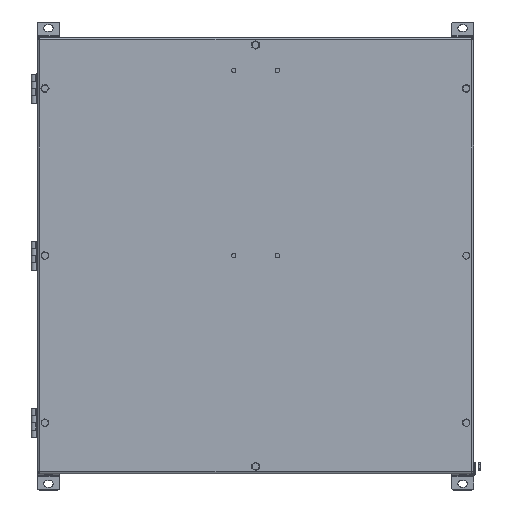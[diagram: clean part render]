
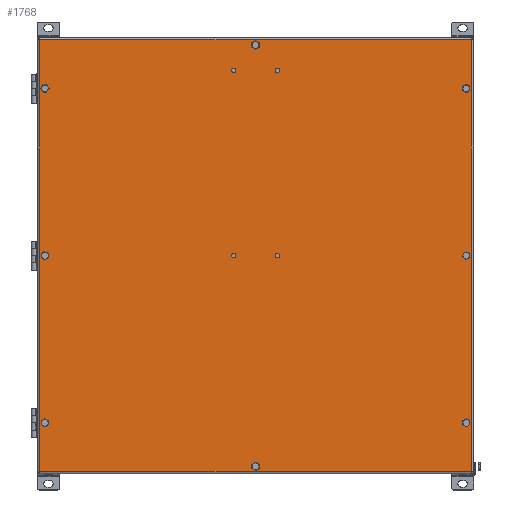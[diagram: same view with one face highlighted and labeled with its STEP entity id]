
A CAD part, top view. The second image highlights one B-rep face of the part: STEP entity #1768.
In plain terms, the highlighted planar face has unit normal (0, 0, 1).
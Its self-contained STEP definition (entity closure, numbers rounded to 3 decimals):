
#1198=CARTESIAN_POINT('',(297.,-297.0,250.5));
#1199=VERTEX_POINT('',#1198);
#1265=CARTESIAN_POINT('',(297.,297.,250.5));
#1266=VERTEX_POINT('',#1265);
#1372=CARTESIAN_POINT('',(-297.,-297.0,250.5));
#1373=VERTEX_POINT('',#1372);
#1388=CARTESIAN_POINT('',(297.,-297.0,250.5));
#1389=DIRECTION('',(-1.0,0.0,0.0));
#1390=VECTOR('',#1389,594.);
#1391=LINE('',#1388,#1390);
#1392=EDGE_CURVE('',#1199,#1373,#1391,.T.);
#1444=CARTESIAN_POINT('',(-297.0,297.,250.5));
#1445=VERTEX_POINT('',#1444);
#1466=CARTESIAN_POINT('',(-297.,-297.0,250.5));
#1467=DIRECTION('',(0.0,1.0,0.0));
#1468=VECTOR('',#1467,594.0);
#1469=LINE('',#1466,#1468);
#1470=EDGE_CURVE('',#1373,#1445,#1469,.T.);
#1494=CARTESIAN_POINT('',(-297.0,297.,250.5));
#1495=DIRECTION('',(1.0,0.0,0.0));
#1496=VECTOR('',#1495,594.0);
#1497=LINE('',#1494,#1496);
#1498=EDGE_CURVE('',#1445,#1266,#1497,.T.);
#1516=CARTESIAN_POINT('',(297.,297.0,250.5));
#1517=DIRECTION('',(0.0,-1.0,0.0));
#1518=VECTOR('',#1517,594.0);
#1519=LINE('',#1516,#1518);
#1520=EDGE_CURVE('',#1266,#1199,#1519,.T.);
#1625=CARTESIAN_POINT('',(0.,0.,250.5));
#1626=DIRECTION('',(0.0,0.0,1.0));
#1627=DIRECTION('',(1.0,0.0,0.0));
#1628=AXIS2_PLACEMENT_3D('',#1625,#1626,#1627);
#1629=PLANE('',#1628);
#1630=ORIENTED_EDGE('',*,*,#1392,.F.);
#1631=ORIENTED_EDGE('',*,*,#1520,.F.);
#1632=ORIENTED_EDGE('',*,*,#1498,.F.);
#1633=ORIENTED_EDGE('',*,*,#1470,.F.);
#1634=EDGE_LOOP('',(#1630,#1631,#1632,#1633));
#1635=FACE_OUTER_BOUND('',#1634,.T.);
#1636=CARTESIAN_POINT('',(-286.25,230.,250.5));
#1637=VERTEX_POINT('',#1636);
#1638=CARTESIAN_POINT('',(-290.,230.,250.5));
#1639=DIRECTION('',(0.0,0.0,-1.0));
#1640=DIRECTION('',(-1.0,0.0,0.0));
#1641=AXIS2_PLACEMENT_3D('',#1638,#1639,#1640);
#1642=CIRCLE('',#1641,3.75);
#1643=EDGE_CURVE('',#1637,#1637,#1642,.T.);
#1644=ORIENTED_EDGE('',*,*,#1643,.T.);
#1645=EDGE_LOOP('',(#1644));
#1646=FACE_BOUND('',#1645,.T.);
#1647=CARTESIAN_POINT('',(293.75,230.0,250.5));
#1648=VERTEX_POINT('',#1647);
#1649=CARTESIAN_POINT('',(290.,230.0,250.5));
#1650=DIRECTION('',(0.0,0.0,-1.0));
#1651=DIRECTION('',(-1.0,0.0,0.0));
#1652=AXIS2_PLACEMENT_3D('',#1649,#1650,#1651);
#1653=CIRCLE('',#1652,3.75);
#1654=EDGE_CURVE('',#1648,#1648,#1653,.T.);
#1655=ORIENTED_EDGE('',*,*,#1654,.T.);
#1656=EDGE_LOOP('',(#1655));
#1657=FACE_BOUND('',#1656,.T.);
#1658=CARTESIAN_POINT('',(-286.25,0.,250.5));
#1659=VERTEX_POINT('',#1658);
#1660=CARTESIAN_POINT('',(-290.,0.,250.5));
#1661=DIRECTION('',(0.0,0.0,-1.0));
#1662=DIRECTION('',(-1.0,0.0,0.0));
#1663=AXIS2_PLACEMENT_3D('',#1660,#1661,#1662);
#1664=CIRCLE('',#1663,3.75);
#1665=EDGE_CURVE('',#1659,#1659,#1664,.T.);
#1666=ORIENTED_EDGE('',*,*,#1665,.T.);
#1667=EDGE_LOOP('',(#1666));
#1668=FACE_BOUND('',#1667,.T.);
#1669=CARTESIAN_POINT('',(293.75,0.,250.5));
#1670=VERTEX_POINT('',#1669);
#1671=CARTESIAN_POINT('',(290.,0.,250.5));
#1672=DIRECTION('',(0.0,0.0,-1.0));
#1673=DIRECTION('',(-1.0,0.0,0.0));
#1674=AXIS2_PLACEMENT_3D('',#1671,#1672,#1673);
#1675=CIRCLE('',#1674,3.75);
#1676=EDGE_CURVE('',#1670,#1670,#1675,.T.);
#1677=ORIENTED_EDGE('',*,*,#1676,.T.);
#1678=EDGE_LOOP('',(#1677));
#1679=FACE_BOUND('',#1678,.T.);
#1680=CARTESIAN_POINT('',(-286.25,-230.,250.5));
#1681=VERTEX_POINT('',#1680);
#1682=CARTESIAN_POINT('',(-290.,-230.,250.5));
#1683=DIRECTION('',(0.0,0.0,-1.0));
#1684=DIRECTION('',(-1.0,0.0,0.0));
#1685=AXIS2_PLACEMENT_3D('',#1682,#1683,#1684);
#1686=CIRCLE('',#1685,3.75);
#1687=EDGE_CURVE('',#1681,#1681,#1686,.T.);
#1688=ORIENTED_EDGE('',*,*,#1687,.T.);
#1689=EDGE_LOOP('',(#1688));
#1690=FACE_BOUND('',#1689,.T.);
#1691=CARTESIAN_POINT('',(293.75,-230.0,250.5));
#1692=VERTEX_POINT('',#1691);
#1693=CARTESIAN_POINT('',(290.,-230.0,250.5));
#1694=DIRECTION('',(0.0,0.0,-1.0));
#1695=DIRECTION('',(-1.0,0.0,0.0));
#1696=AXIS2_PLACEMENT_3D('',#1693,#1694,#1695);
#1697=CIRCLE('',#1696,3.75);
#1698=EDGE_CURVE('',#1692,#1692,#1697,.T.);
#1699=ORIENTED_EDGE('',*,*,#1698,.T.);
#1700=EDGE_LOOP('',(#1699));
#1701=FACE_BOUND('',#1700,.T.);
#1702=CARTESIAN_POINT('',(3.75,290.,250.5));
#1703=VERTEX_POINT('',#1702);
#1704=CARTESIAN_POINT('',(0.,290.,250.5));
#1705=DIRECTION('',(0.0,0.0,-1.0));
#1706=DIRECTION('',(-1.0,0.0,0.0));
#1707=AXIS2_PLACEMENT_3D('',#1704,#1705,#1706);
#1708=CIRCLE('',#1707,3.75);
#1709=EDGE_CURVE('',#1703,#1703,#1708,.T.);
#1710=ORIENTED_EDGE('',*,*,#1709,.T.);
#1711=EDGE_LOOP('',(#1710));
#1712=FACE_BOUND('',#1711,.T.);
#1713=CARTESIAN_POINT('',(3.75,-290.,250.5));
#1714=VERTEX_POINT('',#1713);
#1715=CARTESIAN_POINT('',(0.,-290.,250.5));
#1716=DIRECTION('',(0.0,0.0,-1.0));
#1717=DIRECTION('',(-1.0,0.0,0.0));
#1718=AXIS2_PLACEMENT_3D('',#1715,#1716,#1717);
#1719=CIRCLE('',#1718,3.75);
#1720=EDGE_CURVE('',#1714,#1714,#1719,.T.);
#1721=ORIENTED_EDGE('',*,*,#1720,.T.);
#1722=EDGE_LOOP('',(#1721));
#1723=FACE_BOUND('',#1722,.T.);
#1724=CARTESIAN_POINT('',(33.05,255.,250.5));
#1725=VERTEX_POINT('',#1724);
#1726=CARTESIAN_POINT('',(30.,255.,250.5));
#1727=DIRECTION('',(0.0,0.0,-1.0));
#1728=DIRECTION('',(-1.0,0.0,0.0));
#1729=AXIS2_PLACEMENT_3D('',#1726,#1727,#1728);
#1730=CIRCLE('',#1729,3.05);
#1731=EDGE_CURVE('',#1725,#1725,#1730,.T.);
#1732=ORIENTED_EDGE('',*,*,#1731,.T.);
#1733=EDGE_LOOP('',(#1732));
#1734=FACE_BOUND('',#1733,.T.);
#1735=CARTESIAN_POINT('',(-26.95,255.,250.5));
#1736=VERTEX_POINT('',#1735);
#1737=CARTESIAN_POINT('',(-30.,255.,250.5));
#1738=DIRECTION('',(0.0,0.0,-1.0));
#1739=DIRECTION('',(-1.0,0.0,0.0));
#1740=AXIS2_PLACEMENT_3D('',#1737,#1738,#1739);
#1741=CIRCLE('',#1740,3.05);
#1742=EDGE_CURVE('',#1736,#1736,#1741,.T.);
#1743=ORIENTED_EDGE('',*,*,#1742,.T.);
#1744=EDGE_LOOP('',(#1743));
#1745=FACE_BOUND('',#1744,.T.);
#1746=CARTESIAN_POINT('',(-26.95,0.,250.5));
#1747=VERTEX_POINT('',#1746);
#1748=CARTESIAN_POINT('',(-30.,0.,250.5));
#1749=DIRECTION('',(0.0,0.0,-1.0));
#1750=DIRECTION('',(-1.0,0.0,0.0));
#1751=AXIS2_PLACEMENT_3D('',#1748,#1749,#1750);
#1752=CIRCLE('',#1751,3.05);
#1753=EDGE_CURVE('',#1747,#1747,#1752,.T.);
#1754=ORIENTED_EDGE('',*,*,#1753,.T.);
#1755=EDGE_LOOP('',(#1754));
#1756=FACE_BOUND('',#1755,.T.);
#1757=CARTESIAN_POINT('',(33.05,0.,250.5));
#1758=VERTEX_POINT('',#1757);
#1759=CARTESIAN_POINT('',(30.,0.,250.5));
#1760=DIRECTION('',(0.0,0.0,-1.0));
#1761=DIRECTION('',(-1.0,0.0,0.0));
#1762=AXIS2_PLACEMENT_3D('',#1759,#1760,#1761);
#1763=CIRCLE('',#1762,3.05);
#1764=EDGE_CURVE('',#1758,#1758,#1763,.T.);
#1765=ORIENTED_EDGE('',*,*,#1764,.T.);
#1766=EDGE_LOOP('',(#1765));
#1767=FACE_BOUND('',#1766,.T.);
#1768=ADVANCED_FACE('',(#1635,#1646,#1657,#1668,#1679,#1690,#1701,#1712,#1723,#1734,#1745,#1756,#1767),#1629,.T.);
